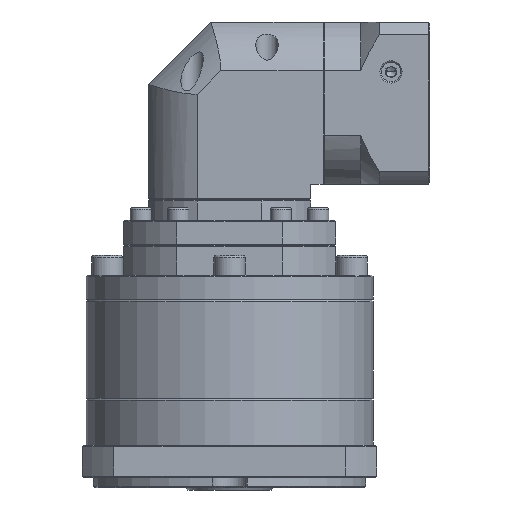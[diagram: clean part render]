
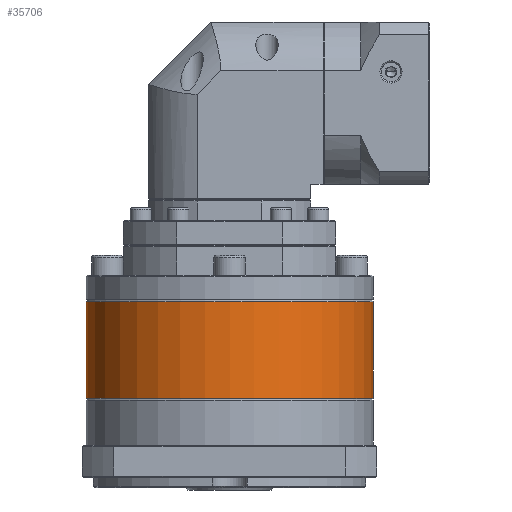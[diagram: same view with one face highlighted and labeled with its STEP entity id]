
A CAD part, front view. The second image highlights one B-rep face of the part: STEP entity #35706.
In plain terms, the highlighted cylindrical face has radius 57.5 mm (diameter 115 mm), a partial arc.
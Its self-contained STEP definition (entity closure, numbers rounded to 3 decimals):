
#2927 = VECTOR ( 'NONE', #49561, 1000. ) ;
#6048 = AXIS2_PLACEMENT_3D ( 'NONE', #107537, #66178, #44415 ) ;
#19706 = CARTESIAN_POINT ( 'NONE',  ( 90.836, 74.775, -87.524 ) ) ;
#21973 = DIRECTION ( 'NONE',  ( -1., 0., 0. ) ) ;
#30125 = DIRECTION ( 'NONE',  ( -1., 0., 0. ) ) ;
#30500 = EDGE_CURVE ( 'NONE', #94950, #95793, #79059, .T. ) ;
#34514 = AXIS2_PLACEMENT_3D ( 'NONE', #111406, #133044, #30125 ) ;
#34613 = CARTESIAN_POINT ( 'NONE',  ( 33.336, 74.775, -88.024 ) ) ;
#35706 = ADVANCED_FACE ( 'NONE', ( #87175 ), #70868, .T. ) ;
#44415 = DIRECTION ( 'NONE',  ( -1., 0., 0. ) ) ;
#46119 = CARTESIAN_POINT ( 'NONE',  ( 148.336, 74.775, -126.735 ) ) ;
#46598 = LINE ( 'NONE', #73184, #126128 ) ;
#49561 = DIRECTION ( 'NONE',  ( 0., 0., -1. ) ) ;
#66178 = DIRECTION ( 'NONE',  ( 0., 0., -1. ) ) ;
#70868 = CYLINDRICAL_SURFACE ( 'NONE', #107322, 57.5 ) ;
#73184 = CARTESIAN_POINT ( 'NONE',  ( 148.336, 74.775, -87.524 ) ) ;
#77963 = CIRCLE ( 'NONE', #34514, 57.5 ) ;
#78171 = ORIENTED_EDGE ( 'NONE', *, *, #118716, .F. ) ;
#79059 = LINE ( 'NONE', #88672, #2927 ) ;
#87048 = ORIENTED_EDGE ( 'NONE', *, *, #30500, .T. ) ;
#87175 = FACE_OUTER_BOUND ( 'NONE', #118905, .T. ) ;
#88672 = CARTESIAN_POINT ( 'NONE',  ( 33.336, 74.775, -87.524 ) ) ;
#91534 = CIRCLE ( 'NONE', #6048, 57.5 ) ;
#94636 = CARTESIAN_POINT ( 'NONE',  ( 33.336, 74.775, -126.735 ) ) ;
#94950 = VERTEX_POINT ( 'NONE', #34613 ) ;
#95793 = VERTEX_POINT ( 'NONE', #94636 ) ;
#102678 = DIRECTION ( 'NONE',  ( 0., 0., -1. ) ) ;
#102742 = DIRECTION ( 'NONE',  ( 0., 0., -1. ) ) ;
#104839 = VERTEX_POINT ( 'NONE', #46119 ) ;
#107322 = AXIS2_PLACEMENT_3D ( 'NONE', #19706, #102678, #21973 ) ;
#107537 = CARTESIAN_POINT ( 'NONE',  ( 90.836, 74.775, -88.024 ) ) ;
#111406 = CARTESIAN_POINT ( 'NONE',  ( 90.836, 74.775, -126.735 ) ) ;
#117611 = EDGE_CURVE ( 'NONE', #95793, #104839, #77963, .T. ) ;
#118716 = EDGE_CURVE ( 'NONE', #122604, #104839, #46598, .T. ) ;
#118905 = EDGE_LOOP ( 'NONE', ( #78171, #122778, #87048, #124278 ) ) ;
#122604 = VERTEX_POINT ( 'NONE', #127079 ) ;
#122778 = ORIENTED_EDGE ( 'NONE', *, *, #127554, .T. ) ;
#124278 = ORIENTED_EDGE ( 'NONE', *, *, #117611, .T. ) ;
#126128 = VECTOR ( 'NONE', #102742, 1000. ) ;
#127079 = CARTESIAN_POINT ( 'NONE',  ( 148.336, 74.775, -88.024 ) ) ;
#127554 = EDGE_CURVE ( 'NONE', #122604, #94950, #91534, .T. ) ;
#133044 = DIRECTION ( 'NONE',  ( 0., 0., 1. ) ) ;
